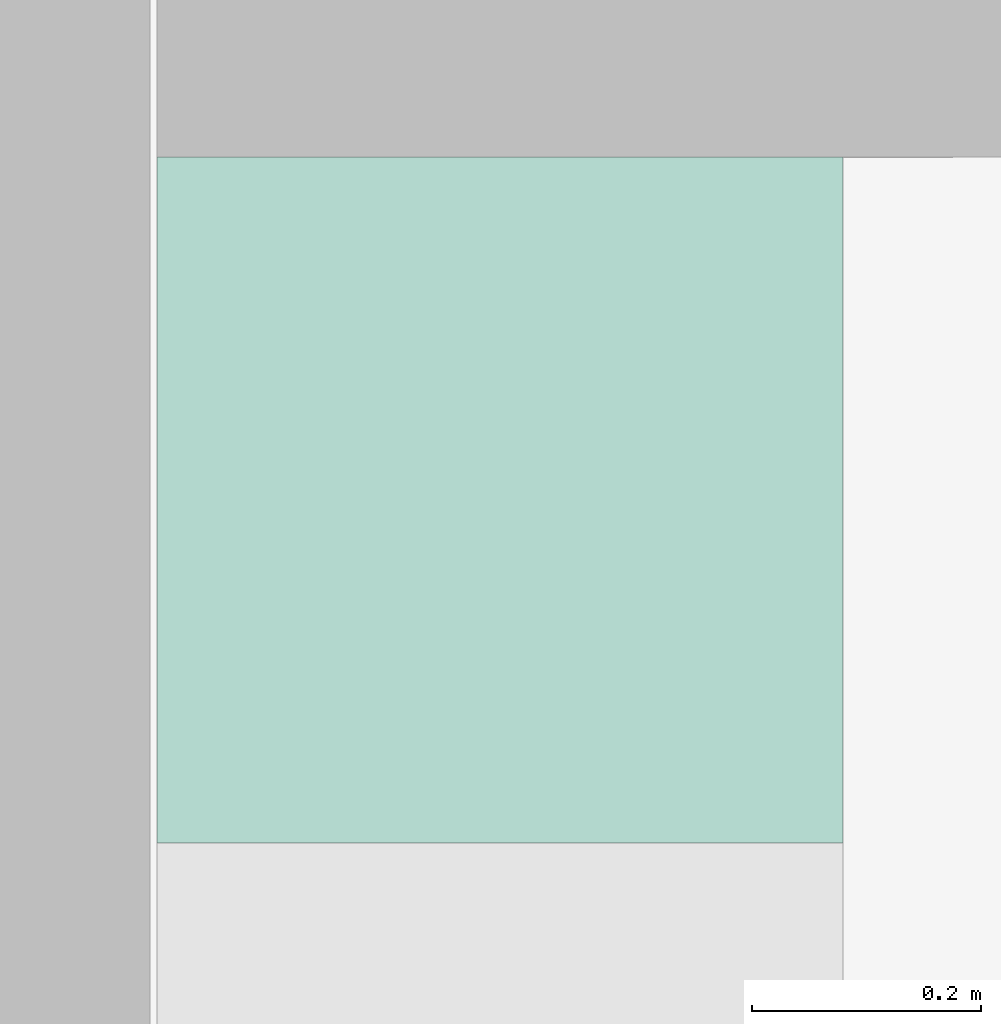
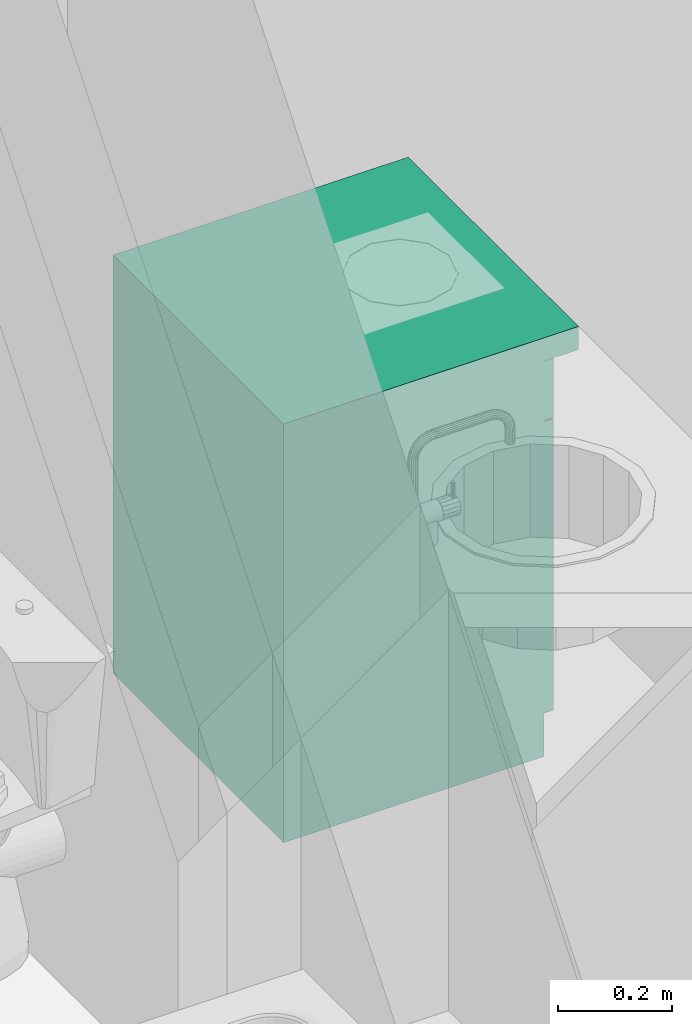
# One storey, part 34 of 165: 1 flow terminal.
"""IFC2X3 building model written with IfcOpenShell, lengths in millimetres."""

import ifcopenshell
import ifcopenshell.guid

model = None  # the IFC model being written
_history = None  # IfcOwnerHistory: only IFC2X3 demands one
_inside = {}  # id of a spatial element -> (the spatial element, [elements in it])
_under = {}  # id of a project, library or spatial element -> (it, [spatial elements below it])
_declared = {}  # id of a project -> (the project, [libraries it declares])
_typed = {}  # id of a type object -> (the type object, [elements of that type])
_made_of = {}  # id of a material, layer set ... -> (it, [elements and type objects made of it])


def new_model(schema):
    """Start an empty IFC model of exactly this schema.

    Asked for "IFC4X3", IfcOpenShell would pick the latest addendum, in which some entities
    have other attributes; the version numbers below select the first issue.
    IFC2X3 requires an IfcOwnerHistory on every rooted entity: one is made here for all.
    """
    global model, _history
    if schema == "IFC4X3":
        model = ifcopenshell.file(schema_version=(4, 3, 0, 0))
    else:
        model = ifcopenshell.file(schema=schema)
    _inside.clear()
    _under.clear()
    _declared.clear()
    _typed.clear()
    _made_of.clear()
    _history = None
    if model.schema == "IFC2X3":
        org = make("IfcOrganization", Name="unknown")
        user = make(
            "IfcPersonAndOrganization",
            ThePerson=make("IfcPerson", FamilyName="unknown"),
            TheOrganization=org,
        )
        app = make(
            "IfcApplication",
            ApplicationDeveloper=org,
            Version="unknown",
            ApplicationFullName="unknown",
            ApplicationIdentifier="unknown",
        )
        _history = make(
            "IfcOwnerHistory",
            OwningUser=user,
            OwningApplication=app,
            ChangeAction="ADDED",
            CreationDate=0,
        )
    return model


def make(cls, **values):
    """One entity of the class cls with the attributes given. An attribute that is None is left unset."""
    return model.create_entity(
        cls, **{name: value for name, value in values.items() if value is not None}
    )


def entity(cls, *values):
    """Any entity or typed value of the class cls, its attributes in the order of the schema. None: left unset."""
    e = model.create_entity(cls)
    for i, value in enumerate(values):
        if value is not None:
            e[i] = value
    return e


def rooted(cls, **values):
    """An entity with a GlobalId (a new one), such as an element, a storey or a relation."""
    return make(cls, GlobalId=ifcopenshell.guid.new(), OwnerHistory=_history, **values)


def si_unit(unit_type, name, prefix=None):
    """IfcSIUnit, for example si_unit("LENGTHUNIT", "METRE", prefix="MILLI")."""
    return make("IfcSIUnit", UnitType=unit_type, Prefix=prefix, Name=name)


def converted_unit(unit_type, name, factor, base, dimensions=None, offset=None):
    """IfcConversionBasedUnit, such as the inch: factor (a typed value) times the base unit."""
    return make(
        "IfcConversionBasedUnit"
        if offset is None
        else "IfcConversionBasedUnitWithOffset",
        ConversionOffset=offset,
        Dimensions=None
        if dimensions is None
        else entity("IfcDimensionalExponents", *dimensions),
        UnitType=unit_type,
        Name=name,
        ConversionFactor=make(
            "IfcMeasureWithUnit", ValueComponent=factor, UnitComponent=base
        ),
    )


def money_unit(currency):
    """IfcMonetaryUnit."""
    return make("IfcMonetaryUnit", Currency=currency)


def assignment(units):
    """IfcUnitAssignment: the units of a project."""
    return None if units is None else make("IfcUnitAssignment", Units=units)


def point(xyz):
    """IfcCartesianPoint."""
    return None if xyz is None else make("IfcCartesianPoint", Coordinates=xyz)


def direction(xyz):
    """IfcDirection."""
    return None if xyz is None else make("IfcDirection", DirectionRatios=xyz)


def frame(location, z_axis=None, x_axis=None):
    """IfcAxis2Placement3D, a coordinate frame: its origin and axes. An axis left out is left unset."""
    return make(
        "IfcAxis2Placement3D",
        Location=point(location),
        Axis=direction(z_axis),
        RefDirection=direction(x_axis),
    )


def origin_with_axes():
    """The frame at (0, 0, 0) with the z axis (0, 0, 1) and the x axis (1, 0, 0) written out."""
    return frame((0.0, 0.0, 0.0), z_axis=(0.0, 0.0, 1.0), x_axis=(1.0, 0.0, 0.0))


def place(relative_to, where):
    """IfcLocalPlacement: puts the frame where relative to a parent placement (None: the world)."""
    return make(
        "IfcLocalPlacement", PlacementRelTo=relative_to, RelativePlacement=where
    )


def context(
    kind, dimensions, precision=None, world=None, true_north=None, identifier=None
):
    """IfcGeometricRepresentationContext, for example the 3D "Model" context."""
    return make(
        "IfcGeometricRepresentationContext",
        ContextIdentifier=identifier,
        ContextType=kind,
        CoordinateSpaceDimension=dimensions,
        Precision=precision,
        WorldCoordinateSystem=world,
        TrueNorth=true_north,
    )


def subcontext(parent, identifier, kind, view, scale=None):
    """IfcGeometricRepresentationSubContext, for example "Body" below "Model"."""
    return make(
        "IfcGeometricRepresentationSubContext",
        ContextIdentifier=identifier,
        ContextType=kind,
        ParentContext=parent,
        TargetScale=scale,
        TargetView=view,
    )


def project(units=None, contexts=None):
    """IfcProject with its units and contexts."""
    return rooted(
        "IfcProject",
        Name="project",
        RepresentationContexts=contexts,
        UnitsInContext=assignment(units),
    )


def spatial(cls, under=None, at=None, **own):
    """A site, building, storey or space (cls), placed at a placement, below another one or the project."""
    s = rooted(cls, ObjectPlacement=at, **own)
    if under is not None:
        _under.setdefault(under.id(), (under, []))[1].append(s)
    return s


def faces_of(points, faces, orient=None, outer=None):
    """IfcFace entities. A face is a list of loops; a loop is a list of indices into points, from 0.

    orient and outer hold one flag for each loop. By default every Orientation is true, the
    first loop of a face is its IfcFaceOuterBound and the others are IfcFaceBound.
    """
    made = []
    for i, loops in enumerate(faces):
        bounds = []
        for j, loop in enumerate(loops):
            is_outer = j == 0 if outer is None else outer[i][j]
            bounds.append(
                make(
                    "IfcFaceOuterBound" if is_outer else "IfcFaceBound",
                    Bound=make("IfcPolyLoop", Polygon=[points[k] for k in loop]),
                    Orientation=True if orient is None else orient[i][j],
                )
            )
        made.append(make("IfcFace", Bounds=bounds))
    return made


def faceted_brep(points, faces, orient=None, outer=None, voids=None):
    """IfcFacetedBrep: a solid bounded by flat faces; with voids (closed shells), ...WithVoids."""
    shared = [point(p) for p in points]
    hull = make("IfcClosedShell", CfsFaces=faces_of(shared, faces, orient, outer))
    if voids is None:
        return make("IfcFacetedBrep", Outer=hull)
    return make(
        "IfcFacetedBrepWithVoids",
        Outer=hull,
        Voids=[
            make(cls, CfsFaces=faces_of(shared, fs, o, b)) for cls, fs, o, b in voids
        ],
    )


def shape(context_of_items, identifier, shape_type, items):
    """IfcShapeRepresentation: the items that make up one representation, for example the "Body"."""
    return make(
        "IfcShapeRepresentation",
        ContextOfItems=context_of_items,
        RepresentationIdentifier=identifier,
        RepresentationType=shape_type,
        Items=items,
    )


def source(mapping_origin, context_of_items, identifier, shape_type, items):
    """IfcRepresentationMap: a shape defined once, which mapped items show again and again."""
    return make(
        "IfcRepresentationMap",
        MappingOrigin=mapping_origin,
        MappedRepresentation=shape(context_of_items, identifier, shape_type, items),
    )


def transform(
    local_origin,
    x_axis=None,
    y_axis=None,
    z_axis=None,
    scale=None,
    scale2=None,
    scale3=None,
    uniform=True,
):
    """IfcCartesianTransformationOperator3D, or its non-uniform kind. x_axis, y_axis, z_axis: its Axis1, 2, 3."""
    if uniform:
        return make(
            "IfcCartesianTransformationOperator3D",
            Axis1=direction(x_axis),
            Axis2=direction(y_axis),
            LocalOrigin=point(local_origin),
            Scale=scale,
            Axis3=direction(z_axis),
        )
    return make(
        "IfcCartesianTransformationOperator3DnonUniform",
        Axis1=direction(x_axis),
        Axis2=direction(y_axis),
        LocalOrigin=point(local_origin),
        Scale=scale,
        Axis3=direction(z_axis),
        Scale2=scale2,
        Scale3=scale3,
    )


def mapped(mapping_source, mapping_target):
    """IfcMappedItem: shows the shape of a source again, moved by a transform."""
    return make(
        "IfcMappedItem", MappingSource=mapping_source, MappingTarget=mapping_target
    )


def material(Name=None, Category=None):
    """IfcMaterial."""
    return make("IfcMaterial", Name=Name, Category=Category)


def material_list(materials):
    """IfcMaterialList."""
    return make("IfcMaterialList", Materials=materials)


def made_of(thing, what):
    """Note that an element or type object is made of a material, layer set ...; save() writes the relation."""
    if what is not None:
        _made_of.setdefault(what.id(), (what, []))[1].append(thing)
    return thing


def type_object(cls, material=None, **own):
    """A type object (cls), such as IfcWallType, which elements share."""
    return made_of(rooted(cls, **own), material)


def element(
    cls,
    number,
    at=None,
    inside=None,
    cuts=None,
    type_object=None,
    material=None,
    context=None,
    identifier="Body",
    shape_type=None,
    held_by="IfcProductDefinitionShape",
    body=None,
    shapes=None,
    **own,
):
    """One element of the class cls, such as IfcWall. Its Tag is "e" and its number.

    at: its placement. inside: the storey or other place that contains it. cuts: it is an
    opening in that element (IfcRelVoidsElement). A single representation is given by context,
    identifier, shape_type and body (its items); several are given by shapes. held_by: the class
    of the entity that holds the representations. save() writes the other relations.
    """
    e = rooted(cls, Tag="e%d" % number, ObjectPlacement=at, **own)
    if body is not None:
        shapes = [shape(context, identifier, shape_type, body)]
    if shapes is not None:
        e.Representation = make(held_by, Representations=shapes)
    if inside is not None:
        _inside.setdefault(inside.id(), (inside, []))[1].append(e)
    if cuts is not None:
        rooted(
            "IfcRelVoidsElement", RelatingBuildingElement=cuts, RelatedOpeningElement=e
        )
    if type_object is not None:
        _typed.setdefault(type_object.id(), (type_object, []))[1].append(e)
    return made_of(e, material)


def aggregate(whole, parts):
    """IfcRelAggregates: a whole, such as a stair, and the parts it consists of."""
    return rooted("IfcRelAggregates", RelatingObject=whole, RelatedObjects=parts)


def save(model, path):
    """Write the relations noted so far, then the file.

    IfcRelAggregates (storeys below a building ...), IfcRelContainedInSpatialStructure (elements
    in a storey), IfcRelDefinesByType, IfcRelAssociatesMaterial and IfcRelDeclares: one each for
    every whole, place, type object, material and project.
    """
    for whole, parts in _under.values():
        aggregate(whole, parts)
    for where, things in _inside.values():
        rooted(
            "IfcRelContainedInSpatialStructure",
            RelatedElements=things,
            RelatingStructure=where,
        )
    for kind, things in _typed.values():
        rooted("IfcRelDefinesByType", RelatedObjects=things, RelatingType=kind)
    for what, things in _made_of.values():
        rooted("IfcRelAssociatesMaterial", RelatedObjects=things, RelatingMaterial=what)
    for by, libraries in _declared.values():
        rooted("IfcRelDeclares", RelatingContext=by, RelatedDefinitions=libraries)
    model.write(path)


model = new_model("IFC2X3")

# Units and contexts
model_context = context("Model", 3, precision=1e-05, world=origin_with_axes(), true_north=direction((0.0, 1.0)))
body_context = subcontext(model_context, "Body", "Model", "MODEL_VIEW")
ifc_project = project(units=[si_unit("LENGTHUNIT", "METRE", prefix="MILLI"), si_unit("AREAUNIT", "SQUARE_METRE"), si_unit("VOLUMEUNIT", "CUBIC_METRE"), converted_unit("PLANEANGLEUNIT", "DEGREE", entity("IfcPlaneAngleMeasure", 0.0174532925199), si_unit("PLANEANGLEUNIT", "RADIAN"), dimensions=[0, 0, 0, 0, 0, 0, 0]), si_unit("SOLIDANGLEUNIT", "STERADIAN"), money_unit("USD"), converted_unit("TIMEUNIT", "Year", entity("IfcTimeMeasure", 31556926.0), si_unit("TIMEUNIT", "SECOND"), dimensions=[0, 0, 0, 0, 0, 0, 0]), si_unit("MASSUNIT", "GRAM"), si_unit("THERMODYNAMICTEMPERATUREUNIT", "DEGREE_CELSIUS"), si_unit("LUMINOUSINTENSITYUNIT", "LUMEN")], contexts=[model_context])

# Site, building, storey
site_placement = place(None, origin_with_axes())
site = spatial("IfcSite", under=ifc_project, at=site_placement, Name="Site", CompositionType="ELEMENT")
building_placement = place(site_placement, origin_with_axes())
building = spatial("IfcBuilding", under=site, at=building_placement, Name="Building", CompositionType="ELEMENT")
storey_placement = place(building_placement, frame((0.0, 0.0, 6300.0), z_axis=(0.0, 0.0, 1.0), x_axis=(1.0, 0.0, 0.0)))
storey = spatial("IfcBuildingStorey", under=building, at=storey_placement, Name="4KORRUS", CompositionType="ELEMENT", Elevation=6300.0)

# Flow terminal
ifc_material = material(Name="Background")
ifc_material_list = material_list([ifc_material])
sanitary_terminal_type = type_object("IfcSanitaryTerminalType", Name="Cabinet Base Single Door 19", PredefinedType="SINK")
shared_shape = source(origin_with_axes(), body_context, "Body", "Brep", [
    faceted_brep([(20.0, 70.0, 710.0), (580.0, 70.0, 710.0), (580.0, 70.0, 730.0), (20.0, 70.0, 730.0), (20.0, 580.0, 710.0), (580.0, 580.0, 710.0), (580.0, 580.0, 730.0), (20.0, 580.0, 730.0)], [[[0, 1, 2, 3]], [[0, 4, 5, 1]], [[1, 5, 6, 2]], [[3, 2, 6, 7]], [[4, 0, 3, 7]], [[5, 4, 7, 6]]]),
    faceted_brep([(0.0, 70.0, 0.0), (600.0, 70.0, 0.0), (600.0, 70.0, 90.0), (0.0, 70.0, 90.0), (0.0, 600.0, 0.0), (600.0, 600.0, 0.0), (600.0, 600.0, 90.0), (0.0, 600.0, 90.0)], [[[0, 1, 2, 3]], [[0, 4, 5, 1]], [[1, 5, 6, 2]], [[3, 2, 6, 7]], [[4, 0, 3, 7]], [[5, 4, 7, 6]]]),
    faceted_brep([(0.0, 70.0, 830.0), (20.0, 70.0, 830.0), (20.0, 70.0, 850.0), (0.0, 70.0, 850.0), (0.0, 600.0, 830.0), (20.0, 600.0, 830.0), (580.0, 600.0, 830.0), (600.0, 600.0, 830.0), (600.0, 70.0, 830.0), (580.0, 70.0, 830.0), (580.0, 70.0, 850.0), (600.0, 70.0, 850.0), (600.0, 600.0, 850.0), (580.0, 600.0, 850.0), (20.0, 600.0, 850.0), (0.0, 600.0, 850.0)], [[[0, 1, 2, 3]], [[0, 4, 5, 6, 7, 8, 9, 1]], [[1, 9, 10, 2]], [[3, 2, 10, 11, 12, 13, 14, 15]], [[4, 0, 3, 15]], [[5, 4, 15, 14]], [[6, 5, 14, 13]], [[7, 6, 13, 12]], [[8, 7, 12, 11]], [[9, 8, 11, 10]]]),
    faceted_brep([(0.0, 70.0, 90.0), (20.0, 70.0, 90.0), (20.0, 70.0, 110.0), (0.0, 70.0, 110.0), (0.0, 600.0, 90.0), (20.0, 600.0, 90.0), (580.0, 600.0, 90.0), (600.0, 600.0, 90.0), (600.0, 70.0, 90.0), (580.0, 70.0, 90.0), (580.0, 70.0, 110.0), (600.0, 70.0, 110.0), (600.0, 600.0, 110.0), (580.0, 600.0, 110.0), (20.0, 600.0, 110.0), (0.0, 600.0, 110.0)], [[[0, 1, 2, 3]], [[0, 4, 5, 6, 7, 8, 9, 1]], [[1, 9, 10, 2]], [[3, 2, 10, 11, 12, 13, 14, 15]], [[4, 0, 3, 15]], [[5, 4, 15, 14]], [[6, 5, 14, 13]], [[7, 6, 13, 12]], [[8, 7, 12, 11]], [[9, 8, 11, 10]]]),
    faceted_brep([(0.0, 70.0, 110.0), (20.0, 70.0, 110.0), (20.0, 70.0, 830.0), (0.0, 70.0, 830.0), (0.0, 600.0, 110.0), (600.0, 600.0, 110.0), (600.0, 70.0, 110.0), (580.0, 70.0, 110.0), (580.0, 580.0, 110.0), (20.0, 580.0, 110.0), (20.0, 580.0, 830.0), (580.0, 580.0, 830.0), (580.0, 70.0, 830.0), (600.0, 70.0, 830.0), (600.0, 600.0, 830.0), (0.0, 600.0, 830.0)], [[[0, 1, 2, 3]], [[0, 4, 5, 6, 7, 8, 9, 1]], [[1, 9, 10, 2]], [[3, 2, 10, 11, 12, 13, 14, 15]], [[4, 0, 3, 15]], [[5, 4, 15, 14]], [[6, 5, 14, 13]], [[7, 6, 13, 12]], [[8, 7, 12, 11]], [[9, 8, 11, 10]]]),
    faceted_brep([(580.0, 70.0, 385.0), (580.0, 580.0, 385.0), (580.0, 580.0, 405.0), (580.0, 70.0, 405.0), (20.0, 70.0, 385.0), (20.0, 580.0, 385.0), (20.0, 580.0, 405.0), (20.0, 70.0, 405.0)], [[[0, 1, 2, 3]], [[0, 4, 5, 1]], [[1, 5, 6, 2]], [[3, 2, 6, 7]], [[4, 0, 3, 7]], [[5, 4, 7, 6]]]),
    faceted_brep([(0.0, 0.0, 850.0), (600.0, 0.0, 850.0), (600.0, 0.0, 900.0), (0.0, 0.0, 900.0), (0.0, 600.0, 850.0), (600.0, 600.0, 850.0), (600.0, 600.0, 900.0), (0.0, 600.0, 900.0)], [[[0, 1, 2, 3]], [[0, 4, 5, 1]], [[1, 5, 6, 2]], [[3, 2, 6, 7]], [[4, 0, 3, 7]], [[5, 4, 7, 6]]]),
    faceted_brep([(1.5, 70.0, 721.5), (598.5, 70.0, 721.5), (598.5, 50.0, 721.5), (1.5, 50.0, 721.5), (1.5, 70.0, 848.5), (598.5, 70.0, 848.5), (598.5, 50.0, 848.5), (1.5, 50.0, 848.5)], [[[0, 1, 2, 3]], [[0, 4, 5, 1]], [[1, 5, 6, 2]], [[3, 2, 6, 7]], [[4, 0, 3, 7]], [[5, 4, 7, 6]]]),
    faceted_brep([(295.408, 50.0, 773.913), (291.515, 50.0, 776.515), (288.913, 50.0, 780.408), (288.0, 50.0, 785.0), (288.913, 50.0, 789.592), (291.515, 50.0, 793.485), (295.408, 50.0, 796.087), (300.0, 50.0, 797.0), (304.592, 50.0, 796.087), (308.485, 50.0, 793.485), (311.087, 50.0, 789.592), (312.0, 50.0, 785.0), (311.087, 50.0, 780.408), (308.485, 50.0, 776.515), (304.592, 50.0, 773.913), (300.0, 50.0, 773.0), (295.408, 25.0, 773.913), (291.515, 25.0, 776.515), (288.913, 25.0, 780.408), (288.0, 25.0, 785.0), (288.913, 25.0, 789.592), (291.515, 25.0, 793.485), (295.408, 25.0, 796.087), (300.0, 25.0, 797.0), (304.592, 25.0, 796.087), (308.485, 25.0, 793.485), (311.087, 25.0, 789.592), (312.0, 25.0, 785.0), (311.087, 25.0, 780.408), (308.485, 25.0, 776.515), (304.592, 25.0, 773.913), (300.0, 25.0, 773.0)], [[[0, 1, 2, 3, 4, 5, 6, 7, 8, 9, 10, 11, 12, 13, 14, 15]], [[1, 0, 16, 17]], [[2, 1, 17, 18]], [[3, 2, 18, 19]], [[4, 3, 19, 20]], [[5, 4, 20, 21]], [[6, 5, 21, 22]], [[7, 6, 22, 23]], [[8, 7, 23, 24]], [[9, 8, 24, 25]], [[10, 9, 25, 26]], [[11, 10, 26, 27]], [[12, 11, 27, 28]], [[13, 12, 28, 29]], [[14, 13, 29, 30]], [[15, 14, 30, 31]], [[0, 15, 31, 16]], [[16, 31, 30, 29, 28, 27, 26, 25, 24, 23, 22, 21, 20, 19, 18, 17]]]),
    faceted_brep([(1.5, 70.0, 91.5), (598.5, 70.0, 91.5), (598.5, 50.0, 91.5), (1.5, 50.0, 91.5), (1.5, 70.0, 718.5), (598.5, 70.0, 718.5), (598.5, 50.0, 718.5), (1.5, 50.0, 718.5)], [[[0, 1, 2, 3]], [[0, 4, 5, 1]], [[1, 5, 6, 2]], [[3, 2, 6, 7]], [[4, 0, 3, 7]], [[5, 4, 7, 6]]]),
    faceted_brep([(559.587, 50.0, 636.908), (556.985, 50.0, 633.015), (553.092, 50.0, 630.413), (548.5, 50.0, 629.5), (543.908, 50.0, 630.413), (540.015, 50.0, 633.015), (537.413, 50.0, 636.908), (536.5, 50.0, 641.5), (537.413, 50.0, 646.092), (540.015, 50.0, 649.985), (543.908, 50.0, 652.587), (548.5, 50.0, 653.5), (553.092, 50.0, 652.587), (556.985, 50.0, 649.985), (559.587, 50.0, 646.092), (560.5, 50.0, 641.5), (559.587, 25.0, 636.908), (556.985, 25.0, 633.015), (553.092, 25.0, 630.413), (548.5, 25.0, 629.5), (543.908, 25.0, 630.413), (540.015, 25.0, 633.015), (537.413, 25.0, 636.908), (536.5, 25.0, 641.5), (537.413, 25.0, 646.092), (540.015, 25.0, 649.985), (543.908, 25.0, 652.587), (548.5, 25.0, 653.5), (553.092, 25.0, 652.587), (556.985, 25.0, 649.985), (559.587, 25.0, 646.092), (560.5, 25.0, 641.5)], [[[0, 1, 2, 3, 4, 5, 6, 7, 8, 9, 10, 11, 12, 13, 14, 15]], [[1, 0, 16, 17]], [[2, 1, 17, 18]], [[3, 2, 18, 19]], [[4, 3, 19, 20]], [[5, 4, 20, 21]], [[6, 5, 21, 22]], [[7, 6, 22, 23]], [[8, 7, 23, 24]], [[9, 8, 24, 25]], [[10, 9, 25, 26]], [[11, 10, 26, 27]], [[12, 11, 27, 28]], [[13, 12, 28, 29]], [[14, 13, 29, 30]], [[15, 14, 30, 31]], [[0, 15, 31, 16]], [[16, 31, 30, 29, 28, 27, 26, 25, 24, 23, 22, 21, 20, 19, 18, 17]]]),
])
flow_terminal_placement = place(storey_placement, frame((-35384.008308, -13789.2398994, 0.0), z_axis=(0.0, 0.0, 1.0), x_axis=(0.0, 1.0, 0.0)))
element("IfcFlowTerminal", 1, at=flow_terminal_placement, inside=storey, type_object=sanitary_terminal_type, material=ifc_material_list, Name="FU - 007", context=body_context, shape_type="MappedRepresentation", body=[
    mapped(shared_shape, transform((0.0, 0.0, 0.0))),
])

save(model, "model.ifc")
